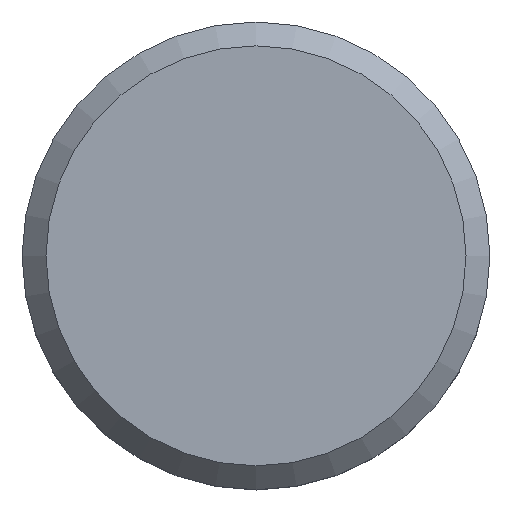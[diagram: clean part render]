
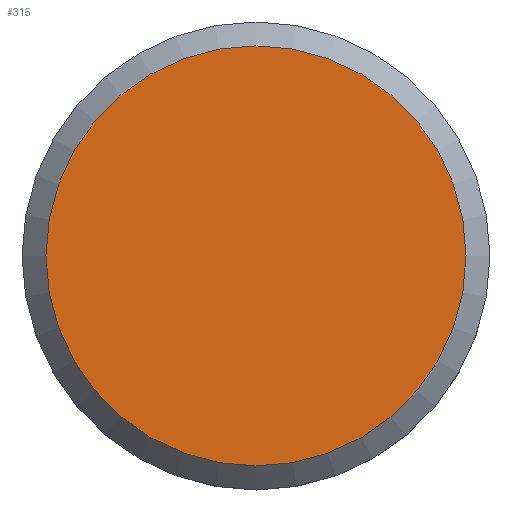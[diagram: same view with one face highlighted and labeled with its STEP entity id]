
A CAD part, top view. The second image highlights one B-rep face of the part: STEP entity #315.
In plain terms, the highlighted planar face has unit normal (0, 0, 1).
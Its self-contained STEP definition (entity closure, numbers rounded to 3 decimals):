
#38=PLANE('',#412);
#56=FACE_OUTER_BOUND('',#76,.T.);
#76=EDGE_LOOP('',(#235));
#142=CIRCLE('',#411,4.4);
#157=VERTEX_POINT('',#556);
#188=EDGE_CURVE('',#157,#157,#142,.T.);
#235=ORIENTED_EDGE('',*,*,#188,.F.);
#315=ADVANCED_FACE('',(#56),#38,.T.);
#411=AXIS2_PLACEMENT_3D('',#558,#462,#463);
#412=AXIS2_PLACEMENT_3D('',#559,#464,#465);
#462=DIRECTION('center_axis',(0.,0.,-1.));
#463=DIRECTION('ref_axis',(1.,0.,0.));
#464=DIRECTION('center_axis',(0.,0.,1.));
#465=DIRECTION('ref_axis',(1.,0.,0.));
#556=CARTESIAN_POINT('',(-4.4,0.,10.));
#558=CARTESIAN_POINT('Origin',(0.,0.,10.));
#559=CARTESIAN_POINT('Origin',(-4.9,0.,10.));
